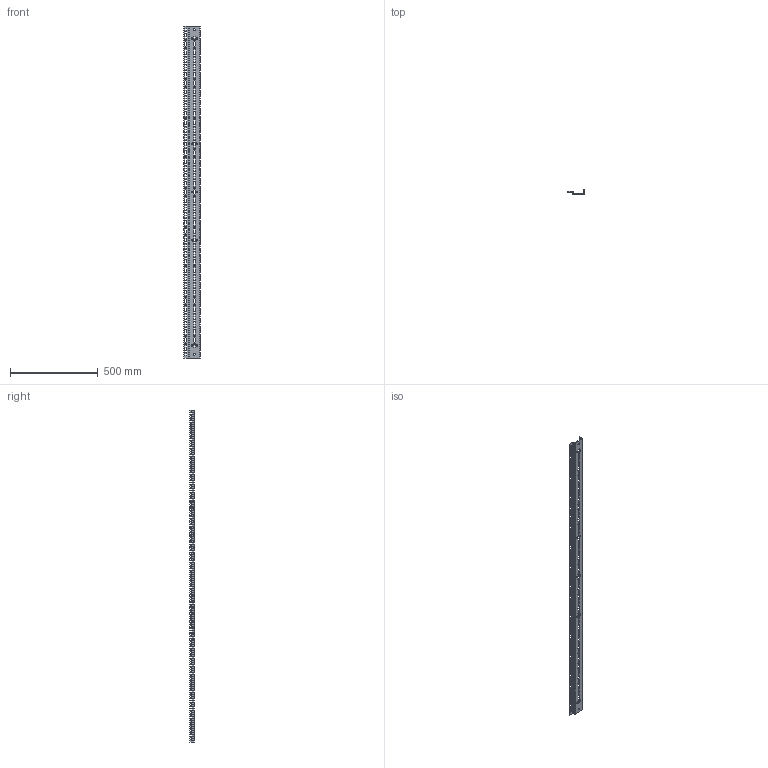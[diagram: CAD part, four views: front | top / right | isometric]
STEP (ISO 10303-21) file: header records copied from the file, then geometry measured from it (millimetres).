
FILE_DESCRIPTION (( 'STEP AP203' ), '1' );
FILE_NAME ('AEMK242000.STEP', '2016-07-28T13:53:31', ( '' ), ( '' ), 'SwSTEP 2.0', 'SolidWorks 2015', '' );
FILE_SCHEMA (( 'CONFIG_CONTROL_DESIGN' ));
Length unit declared in the file: millimetre
Products named in the file (1): AEMK242000
Bounding box: 94 x 24.5 x 1895 mm (x, y, z)
Volume: 409764.2 mm3; surface area: 447213.3 mm2
Topology: 1 solids, 1 shells, 2584 faces, 7746 edges, 5164 vertices
Faces by surface type: plane 1768, cylinder 816
Entity records: 88475 total; most frequent: CARTESIAN_POINT 15495, ORIENTED_EDGE 15492, DIRECTION 14548, EDGE_CURVE 7746, LINE 6114, VECTOR 6114, VERTEX_POINT 5164, AXIS2_PLACEMENT_3D 4217
